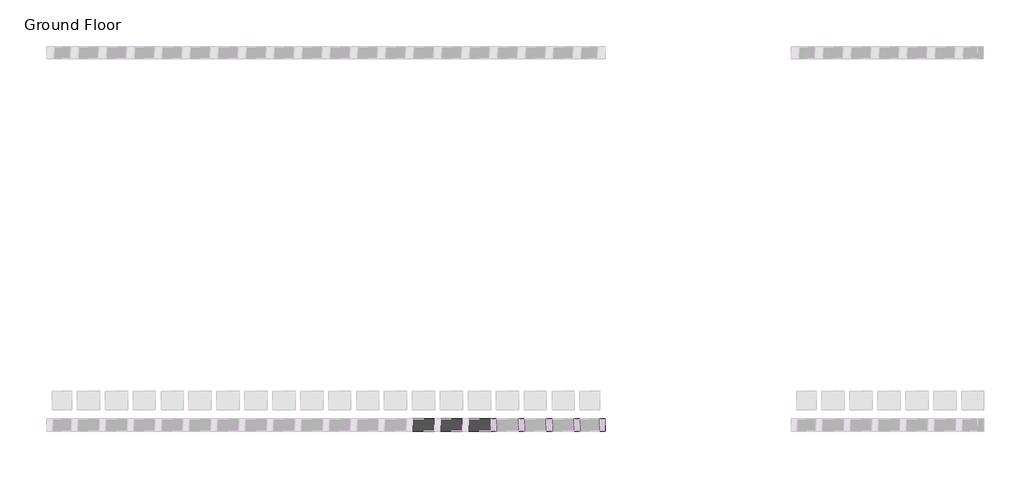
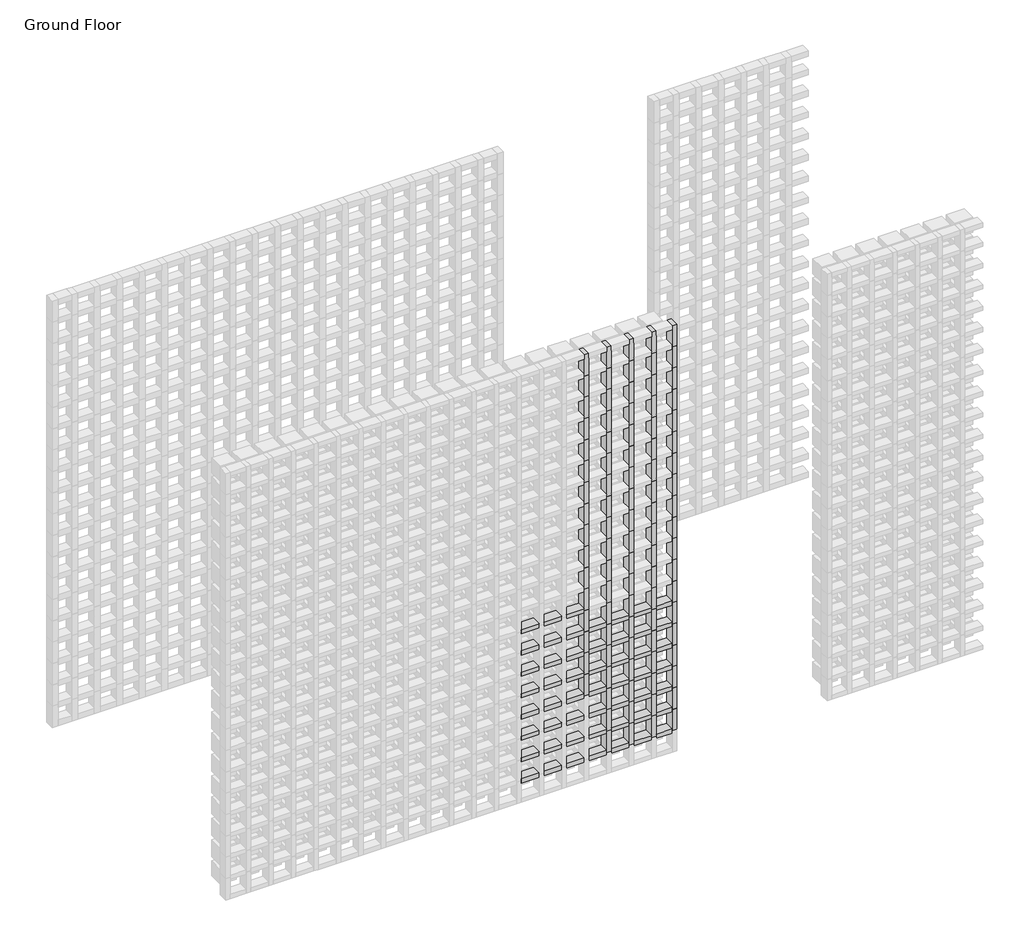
# One storey, part 72 of 350: 144 members.
"""IFC4 building model written with IfcOpenShell, lengths in millimetres."""

from ifc_helpers import new_model, si_unit, origin, place, context, project, spatial, transform, mapped, element, save
from components import rectangular_mullion_5b501421, rectangular_mullion_e9e2e2fa, rectangular_mullion_f28dea33, rectangular_mullion_a9727e9f

model = new_model("IFC4")

# Units and contexts
model_context = context("Model", 3, world=origin())
ifc_project = project(units=[si_unit("LENGTHUNIT", "METRE", prefix="MILLI")], contexts=[model_context])

# Site, building, storey
site = spatial("IfcSite", under=ifc_project)
building = spatial("IfcBuilding", under=site)
storey = spatial("IfcBuildingStorey", under=building, Name="Ground Floor", Elevation=0.0)

# Members
placement = place(None, origin())
rectangular_mullion_shape = rectangular_mullion_5b501421(model_context)
element("IfcMember", 1, ObjectType="Rectangular Mullion : Batten_Timber_Modinex_Austratus_Grid_Fascia_30x65_Hemlock", at=placement, inside=storey, context=model_context, shape_type="MappedRepresentation", body=[
    mapped(rectangular_mullion_shape, transform((12316.4361642, 38968.2978302, 600.0), x_axis=(1.0, 0.0, 0.0), y_axis=(0.0, -1.0, 0.0), z_axis=(0.0, 0.0, -1.0))),
])
element("IfcMember", 2, ObjectType="Rectangular Mullion : Batten_Timber_Modinex_Austratus_Grid_Fascia_30x65_Hemlock", at=placement, inside=storey, context=model_context, shape_type="MappedRepresentation", body=[
    mapped(rectangular_mullion_shape, transform((12316.4361642, 38968.2978302, 750.0), x_axis=(1.0, 0.0, 0.0), y_axis=(0.0, -1.0, 0.0), z_axis=(0.0, 0.0, -1.0))),
])
element("IfcMember", 3, ObjectType="Rectangular Mullion : Batten_Timber_Modinex_Austratus_Grid_Fascia_30x65_Hemlock", at=placement, inside=storey, context=model_context, shape_type="MappedRepresentation", body=[
    mapped(rectangular_mullion_shape, transform((12316.4361642, 38968.2978302, 900.0), x_axis=(1.0, 0.0, 0.0), y_axis=(0.0, -1.0, 0.0), z_axis=(0.0, 0.0, -1.0))),
])
element("IfcMember", 4, ObjectType="Rectangular Mullion : Batten_Timber_Modinex_Austratus_Grid_Fascia_30x65_Hemlock", at=placement, inside=storey, context=model_context, shape_type="MappedRepresentation", body=[
    mapped(rectangular_mullion_shape, transform((12316.4361642, 38968.2978302, 1050.0), x_axis=(1.0, 0.0, 0.0), y_axis=(0.0, -1.0, 0.0), z_axis=(0.0, 0.0, -1.0))),
])
element("IfcMember", 5, ObjectType="Rectangular Mullion : Batten_Timber_Modinex_Austratus_Grid_Fascia_30x65_Hemlock", at=placement, inside=storey, context=model_context, shape_type="MappedRepresentation", body=[
    mapped(rectangular_mullion_shape, transform((12316.4361642, 38968.2978302, 1200.0), x_axis=(1.0, 0.0, 0.0), y_axis=(0.0, -1.0, 0.0), z_axis=(0.0, 0.0, -1.0))),
])
element("IfcMember", 6, ObjectType="Rectangular Mullion : Batten_Timber_Modinex_Austratus_Grid_Fascia_30x65_Hemlock", at=placement, inside=storey, context=model_context, shape_type="MappedRepresentation", body=[
    mapped(rectangular_mullion_shape, transform((12316.4361642, 38968.2978302, 1350.0), x_axis=(1.0, 0.0, 0.0), y_axis=(0.0, -1.0, 0.0), z_axis=(0.0, 0.0, -1.0))),
])
element("IfcMember", 7, ObjectType="Rectangular Mullion : Batten_Timber_Modinex_Austratus_Grid_Fascia_30x65_Hemlock", at=placement, inside=storey, context=model_context, shape_type="MappedRepresentation", body=[
    mapped(rectangular_mullion_shape, transform((12316.4361642, 38968.2978302, 1500.0), x_axis=(1.0, 0.0, 0.0), y_axis=(0.0, -1.0, 0.0), z_axis=(0.0, 0.0, -1.0))),
])
element("IfcMember", 8, ObjectType="Rectangular Mullion : Batten_Timber_Modinex_Austratus_Grid_Fascia_30x65_Hemlock", at=placement, inside=storey, context=model_context, shape_type="MappedRepresentation", body=[
    mapped(rectangular_mullion_shape, transform((12316.4361642, 38968.2978302, 1650.0), x_axis=(1.0, 0.0, 0.0), y_axis=(0.0, -1.0, 0.0), z_axis=(0.0, 0.0, -1.0))),
])
element("IfcMember", 9, ObjectType="Rectangular Mullion : Batten_Timber_Modinex_Austratus_Grid_Fascia_30x65_Hemlock", at=placement, inside=storey, context=model_context, shape_type="MappedRepresentation", body=[
    mapped(rectangular_mullion_shape, transform((12316.4361642, 38968.2978302, 1800.0), x_axis=(1.0, 0.0, 0.0), y_axis=(0.0, -1.0, 0.0), z_axis=(0.0, 0.0, -1.0))),
])
element("IfcMember", 10, ObjectType="Rectangular Mullion : Batten_Timber_Modinex_Austratus_Grid_Fascia_30x65_Hemlock", at=placement, inside=storey, context=model_context, shape_type="MappedRepresentation", body=[
    mapped(rectangular_mullion_shape, transform((12316.4361642, 38968.2978302, 1950.0), x_axis=(1.0, 0.0, 0.0), y_axis=(0.0, -1.0, 0.0), z_axis=(0.0, 0.0, -1.0))),
])
element("IfcMember", 11, ObjectType="Rectangular Mullion : Batten_Timber_Modinex_Austratus_Grid_Fascia_30x65_Hemlock", at=placement, inside=storey, context=model_context, shape_type="MappedRepresentation", body=[
    mapped(rectangular_mullion_shape, transform((12316.4361642, 38968.2978302, 2100.0), x_axis=(1.0, 0.0, 0.0), y_axis=(0.0, -1.0, 0.0), z_axis=(0.0, 0.0, -1.0))),
])
element("IfcMember", 12, ObjectType="Rectangular Mullion : Batten_Timber_Modinex_Austratus_Grid_Fascia_30x65_Hemlock", at=placement, inside=storey, context=model_context, shape_type="MappedRepresentation", body=[
    mapped(rectangular_mullion_shape, transform((12316.4361642, 38968.2978302, 2250.0), x_axis=(1.0, 0.0, 0.0), y_axis=(0.0, -1.0, 0.0), z_axis=(0.0, 0.0, -1.0))),
])
element("IfcMember", 13, ObjectType="Rectangular Mullion : Batten_Timber_Modinex_Austratus_Grid_Fascia_30x65_Hemlock", at=placement, inside=storey, context=model_context, shape_type="MappedRepresentation", body=[
    mapped(rectangular_mullion_shape, transform((12316.4361642, 38968.2978302, 2400.0), x_axis=(1.0, 0.0, 0.0), y_axis=(0.0, -1.0, 0.0), z_axis=(0.0, 0.0, -1.0))),
])
element("IfcMember", 14, ObjectType="Rectangular Mullion : Batten_Timber_Modinex_Austratus_Grid_Fascia_30x65_Hemlock", at=placement, inside=storey, context=model_context, shape_type="MappedRepresentation", body=[
    mapped(rectangular_mullion_shape, transform((12316.4361642, 38968.2978302, 2550.0), x_axis=(1.0, 0.0, 0.0), y_axis=(0.0, -1.0, 0.0), z_axis=(0.0, 0.0, -1.0))),
])
element("IfcMember", 15, ObjectType="Rectangular Mullion : Batten_Timber_Modinex_Austratus_Grid_Fascia_30x65_Hemlock", at=placement, inside=storey, context=model_context, shape_type="MappedRepresentation", body=[
    mapped(rectangular_mullion_shape, transform((12316.4361642, 38968.2978302, 2700.0), x_axis=(1.0, 0.0, 0.0), y_axis=(0.0, -1.0, 0.0), z_axis=(0.0, 0.0, -1.0))),
])
element("IfcMember", 16, ObjectType="Rectangular Mullion : Batten_Timber_Modinex_Austratus_Grid_Fascia_30x65_Hemlock", at=placement, inside=storey, context=model_context, shape_type="MappedRepresentation", body=[
    mapped(rectangular_mullion_shape, transform((12466.4361642, 38968.2978302, 150.0), x_axis=(1.0, 0.0, 0.0), y_axis=(0.0, -1.0, 0.0), z_axis=(0.0, 0.0, -1.0))),
])
element("IfcMember", 17, ObjectType="Rectangular Mullion : Batten_Timber_Modinex_Austratus_Grid_Fascia_30x65_Hemlock", at=placement, inside=storey, context=model_context, shape_type="MappedRepresentation", body=[
    mapped(rectangular_mullion_shape, transform((12466.4361642, 38968.2978302, 300.0), x_axis=(1.0, 0.0, 0.0), y_axis=(0.0, -1.0, 0.0), z_axis=(0.0, 0.0, -1.0))),
])
element("IfcMember", 18, ObjectType="Rectangular Mullion : Batten_Timber_Modinex_Austratus_Grid_Fascia_30x65_Hemlock", at=placement, inside=storey, context=model_context, shape_type="MappedRepresentation", body=[
    mapped(rectangular_mullion_shape, transform((12466.4361642, 38968.2978302, 450.0), x_axis=(1.0, 0.0, 0.0), y_axis=(0.0, -1.0, 0.0), z_axis=(0.0, 0.0, -1.0))),
])
element("IfcMember", 19, ObjectType="Rectangular Mullion : Batten_Timber_Modinex_Austratus_Grid_Fascia_30x65_Hemlock", at=placement, inside=storey, context=model_context, shape_type="MappedRepresentation", body=[
    mapped(rectangular_mullion_shape, transform((12466.4361642, 38968.2978302, 600.0), x_axis=(1.0, 0.0, 0.0), y_axis=(0.0, -1.0, 0.0), z_axis=(0.0, 0.0, -1.0))),
])
element("IfcMember", 20, ObjectType="Rectangular Mullion : Batten_Timber_Modinex_Austratus_Grid_Fascia_30x65_Hemlock", at=placement, inside=storey, context=model_context, shape_type="MappedRepresentation", body=[
    mapped(rectangular_mullion_shape, transform((12466.4361642, 38968.2978302, 750.0), x_axis=(1.0, 0.0, 0.0), y_axis=(0.0, -1.0, 0.0), z_axis=(0.0, 0.0, -1.0))),
])
element("IfcMember", 21, ObjectType="Rectangular Mullion : Batten_Timber_Modinex_Austratus_Grid_Fascia_30x65_Hemlock", at=placement, inside=storey, context=model_context, shape_type="MappedRepresentation", body=[
    mapped(rectangular_mullion_shape, transform((12466.4361642, 38968.2978302, 900.0), x_axis=(1.0, 0.0, 0.0), y_axis=(0.0, -1.0, 0.0), z_axis=(0.0, 0.0, -1.0))),
])
element("IfcMember", 22, ObjectType="Rectangular Mullion : Batten_Timber_Modinex_Austratus_Grid_Fascia_30x65_Hemlock", at=placement, inside=storey, context=model_context, shape_type="MappedRepresentation", body=[
    mapped(rectangular_mullion_shape, transform((12466.4361642, 38968.2978302, 1050.0), x_axis=(1.0, 0.0, 0.0), y_axis=(0.0, -1.0, 0.0), z_axis=(0.0, 0.0, -1.0))),
])
element("IfcMember", 23, ObjectType="Rectangular Mullion : Batten_Timber_Modinex_Austratus_Grid_Fascia_30x65_Hemlock", at=placement, inside=storey, context=model_context, shape_type="MappedRepresentation", body=[
    mapped(rectangular_mullion_shape, transform((12466.4361642, 38968.2978302, 1200.0), x_axis=(1.0, 0.0, 0.0), y_axis=(0.0, -1.0, 0.0), z_axis=(0.0, 0.0, -1.0))),
])
element("IfcMember", 24, ObjectType="Rectangular Mullion : Batten_Timber_Modinex_Austratus_Grid_Fascia_30x65_Hemlock", at=placement, inside=storey, context=model_context, shape_type="MappedRepresentation", body=[
    mapped(rectangular_mullion_shape, transform((12466.4361642, 38968.2978302, 1350.0), x_axis=(1.0, 0.0, 0.0), y_axis=(0.0, -1.0, 0.0), z_axis=(0.0, 0.0, -1.0))),
])
element("IfcMember", 25, ObjectType="Rectangular Mullion : Batten_Timber_Modinex_Austratus_Grid_Fascia_30x65_Hemlock", at=placement, inside=storey, context=model_context, shape_type="MappedRepresentation", body=[
    mapped(rectangular_mullion_shape, transform((12466.4361642, 38968.2978302, 1500.0), x_axis=(1.0, 0.0, 0.0), y_axis=(0.0, -1.0, 0.0), z_axis=(0.0, 0.0, -1.0))),
])
element("IfcMember", 26, ObjectType="Rectangular Mullion : Batten_Timber_Modinex_Austratus_Grid_Fascia_30x65_Hemlock", at=placement, inside=storey, context=model_context, shape_type="MappedRepresentation", body=[
    mapped(rectangular_mullion_shape, transform((12466.4361642, 38968.2978302, 1650.0), x_axis=(1.0, 0.0, 0.0), y_axis=(0.0, -1.0, 0.0), z_axis=(0.0, 0.0, -1.0))),
])
element("IfcMember", 27, ObjectType="Rectangular Mullion : Batten_Timber_Modinex_Austratus_Grid_Fascia_30x65_Hemlock", at=placement, inside=storey, context=model_context, shape_type="MappedRepresentation", body=[
    mapped(rectangular_mullion_shape, transform((12466.4361642, 38968.2978302, 1800.0), x_axis=(1.0, 0.0, 0.0), y_axis=(0.0, -1.0, 0.0), z_axis=(0.0, 0.0, -1.0))),
])
element("IfcMember", 28, ObjectType="Rectangular Mullion : Batten_Timber_Modinex_Austratus_Grid_Fascia_30x65_Hemlock", at=placement, inside=storey, context=model_context, shape_type="MappedRepresentation", body=[
    mapped(rectangular_mullion_shape, transform((12466.4361642, 38968.2978302, 1950.0), x_axis=(1.0, 0.0, 0.0), y_axis=(0.0, -1.0, 0.0), z_axis=(0.0, 0.0, -1.0))),
])
element("IfcMember", 29, ObjectType="Rectangular Mullion : Batten_Timber_Modinex_Austratus_Grid_Fascia_30x65_Hemlock", at=placement, inside=storey, context=model_context, shape_type="MappedRepresentation", body=[
    mapped(rectangular_mullion_shape, transform((12466.4361642, 38968.2978302, 2100.0), x_axis=(1.0, 0.0, 0.0), y_axis=(0.0, -1.0, 0.0), z_axis=(0.0, 0.0, -1.0))),
])
element("IfcMember", 30, ObjectType="Rectangular Mullion : Batten_Timber_Modinex_Austratus_Grid_Fascia_30x65_Hemlock", at=placement, inside=storey, context=model_context, shape_type="MappedRepresentation", body=[
    mapped(rectangular_mullion_shape, transform((12466.4361642, 38968.2978302, 2250.0), x_axis=(1.0, 0.0, 0.0), y_axis=(0.0, -1.0, 0.0), z_axis=(0.0, 0.0, -1.0))),
])
element("IfcMember", 31, ObjectType="Rectangular Mullion : Batten_Timber_Modinex_Austratus_Grid_Fascia_30x65_Hemlock", at=placement, inside=storey, context=model_context, shape_type="MappedRepresentation", body=[
    mapped(rectangular_mullion_shape, transform((12466.4361642, 38968.2978302, 2400.0), x_axis=(1.0, 0.0, 0.0), y_axis=(0.0, -1.0, 0.0), z_axis=(0.0, 0.0, -1.0))),
])
element("IfcMember", 32, ObjectType="Rectangular Mullion : Batten_Timber_Modinex_Austratus_Grid_Fascia_30x65_Hemlock", at=placement, inside=storey, context=model_context, shape_type="MappedRepresentation", body=[
    mapped(rectangular_mullion_shape, transform((12466.4361642, 38968.2978302, 2550.0), x_axis=(1.0, 0.0, 0.0), y_axis=(0.0, -1.0, 0.0), z_axis=(0.0, 0.0, -1.0))),
])
element("IfcMember", 33, ObjectType="Rectangular Mullion : Batten_Timber_Modinex_Austratus_Grid_Fascia_30x65_Hemlock", at=placement, inside=storey, context=model_context, shape_type="MappedRepresentation", body=[
    mapped(rectangular_mullion_shape, transform((12466.4361642, 38968.2978302, 2700.0), x_axis=(1.0, 0.0, 0.0), y_axis=(0.0, -1.0, 0.0), z_axis=(0.0, 0.0, -1.0))),
])
element("IfcMember", 34, ObjectType="Rectangular Mullion : Batten_Timber_Modinex_Austratus_Grid_Fascia_30x65_Hemlock", at=placement, inside=storey, context=model_context, shape_type="MappedRepresentation", body=[
    mapped(rectangular_mullion_shape, transform((12616.4361642, 38968.2978302, 150.0), x_axis=(1.0, 0.0, 0.0), y_axis=(0.0, -1.0, 0.0), z_axis=(0.0, 0.0, -1.0))),
])
element("IfcMember", 35, ObjectType="Rectangular Mullion : Batten_Timber_Modinex_Austratus_Grid_Fascia_30x65_Hemlock", at=placement, inside=storey, context=model_context, shape_type="MappedRepresentation", body=[
    mapped(rectangular_mullion_shape, transform((12616.4361642, 38968.2978302, 300.0), x_axis=(1.0, 0.0, 0.0), y_axis=(0.0, -1.0, 0.0), z_axis=(0.0, 0.0, -1.0))),
])
element("IfcMember", 36, ObjectType="Rectangular Mullion : Batten_Timber_Modinex_Austratus_Grid_Fascia_30x65_Hemlock", at=placement, inside=storey, context=model_context, shape_type="MappedRepresentation", body=[
    mapped(rectangular_mullion_shape, transform((12616.4361642, 38968.2978302, 450.0), x_axis=(1.0, 0.0, 0.0), y_axis=(0.0, -1.0, 0.0), z_axis=(0.0, 0.0, -1.0))),
])
element("IfcMember", 37, ObjectType="Rectangular Mullion : Batten_Timber_Modinex_Austratus_Grid_Fascia_30x65_Hemlock", at=placement, inside=storey, context=model_context, shape_type="MappedRepresentation", body=[
    mapped(rectangular_mullion_shape, transform((12616.4361642, 38968.2978302, 600.0), x_axis=(1.0, 0.0, 0.0), y_axis=(0.0, -1.0, 0.0), z_axis=(0.0, 0.0, -1.0))),
])
element("IfcMember", 38, ObjectType="Rectangular Mullion : Batten_Timber_Modinex_Austratus_Grid_Fascia_30x65_Hemlock", at=placement, inside=storey, context=model_context, shape_type="MappedRepresentation", body=[
    mapped(rectangular_mullion_shape, transform((12616.4361642, 38968.2978302, 750.0), x_axis=(1.0, 0.0, 0.0), y_axis=(0.0, -1.0, 0.0), z_axis=(0.0, 0.0, -1.0))),
])
element("IfcMember", 39, ObjectType="Rectangular Mullion : Batten_Timber_Modinex_Austratus_Grid_Fascia_30x65_Hemlock", at=placement, inside=storey, context=model_context, shape_type="MappedRepresentation", body=[
    mapped(rectangular_mullion_shape, transform((12616.4361642, 38968.2978302, 900.0), x_axis=(1.0, 0.0, 0.0), y_axis=(0.0, -1.0, 0.0), z_axis=(0.0, 0.0, -1.0))),
])
element("IfcMember", 40, ObjectType="Rectangular Mullion : Batten_Timber_Modinex_Austratus_Grid_Fascia_30x65_Hemlock", at=placement, inside=storey, context=model_context, shape_type="MappedRepresentation", body=[
    mapped(rectangular_mullion_shape, transform((12616.4361642, 38968.2978302, 1050.0), x_axis=(1.0, 0.0, 0.0), y_axis=(0.0, -1.0, 0.0), z_axis=(0.0, 0.0, -1.0))),
])
element("IfcMember", 41, ObjectType="Rectangular Mullion : Batten_Timber_Modinex_Austratus_Grid_Fascia_30x65_Hemlock", at=placement, inside=storey, context=model_context, shape_type="MappedRepresentation", body=[
    mapped(rectangular_mullion_shape, transform((12616.4361642, 38968.2978302, 1200.0), x_axis=(1.0, 0.0, 0.0), y_axis=(0.0, -1.0, 0.0), z_axis=(0.0, 0.0, -1.0))),
])
element("IfcMember", 42, ObjectType="Rectangular Mullion : Batten_Timber_Modinex_Austratus_Grid_Fascia_30x65_Hemlock", at=placement, inside=storey, context=model_context, shape_type="MappedRepresentation", body=[
    mapped(rectangular_mullion_shape, transform((12616.4361642, 38968.2978302, 1350.0), x_axis=(1.0, 0.0, 0.0), y_axis=(0.0, -1.0, 0.0), z_axis=(0.0, 0.0, -1.0))),
])
element("IfcMember", 43, ObjectType="Rectangular Mullion : Batten_Timber_Modinex_Austratus_Grid_Fascia_30x65_Hemlock", at=placement, inside=storey, context=model_context, shape_type="MappedRepresentation", body=[
    mapped(rectangular_mullion_shape, transform((12616.4361642, 38968.2978302, 1500.0), x_axis=(1.0, 0.0, 0.0), y_axis=(0.0, -1.0, 0.0), z_axis=(0.0, 0.0, -1.0))),
])
element("IfcMember", 44, ObjectType="Rectangular Mullion : Batten_Timber_Modinex_Austratus_Grid_Fascia_30x65_Hemlock", at=placement, inside=storey, context=model_context, shape_type="MappedRepresentation", body=[
    mapped(rectangular_mullion_shape, transform((12616.4361642, 38968.2978302, 1650.0), x_axis=(1.0, 0.0, 0.0), y_axis=(0.0, -1.0, 0.0), z_axis=(0.0, 0.0, -1.0))),
])
element("IfcMember", 45, ObjectType="Rectangular Mullion : Batten_Timber_Modinex_Austratus_Grid_Fascia_30x65_Hemlock", at=placement, inside=storey, context=model_context, shape_type="MappedRepresentation", body=[
    mapped(rectangular_mullion_shape, transform((12616.4361642, 38968.2978302, 1800.0), x_axis=(1.0, 0.0, 0.0), y_axis=(0.0, -1.0, 0.0), z_axis=(0.0, 0.0, -1.0))),
])
element("IfcMember", 46, ObjectType="Rectangular Mullion : Batten_Timber_Modinex_Austratus_Grid_Fascia_30x65_Hemlock", at=placement, inside=storey, context=model_context, shape_type="MappedRepresentation", body=[
    mapped(rectangular_mullion_shape, transform((12616.4361642, 38968.2978302, 1950.0), x_axis=(1.0, 0.0, 0.0), y_axis=(0.0, -1.0, 0.0), z_axis=(0.0, 0.0, -1.0))),
])
element("IfcMember", 47, ObjectType="Rectangular Mullion : Batten_Timber_Modinex_Austratus_Grid_Fascia_30x65_Hemlock", at=placement, inside=storey, context=model_context, shape_type="MappedRepresentation", body=[
    mapped(rectangular_mullion_shape, transform((12616.4361642, 38968.2978302, 2100.0), x_axis=(1.0, 0.0, 0.0), y_axis=(0.0, -1.0, 0.0), z_axis=(0.0, 0.0, -1.0))),
])
element("IfcMember", 48, ObjectType="Rectangular Mullion : Batten_Timber_Modinex_Austratus_Grid_Fascia_30x65_Hemlock", at=placement, inside=storey, context=model_context, shape_type="MappedRepresentation", body=[
    mapped(rectangular_mullion_shape, transform((12616.4361642, 38968.2978302, 2250.0), x_axis=(1.0, 0.0, 0.0), y_axis=(0.0, -1.0, 0.0), z_axis=(0.0, 0.0, -1.0))),
])
element("IfcMember", 49, ObjectType="Rectangular Mullion : Batten_Timber_Modinex_Austratus_Grid_Fascia_30x65_Hemlock", at=placement, inside=storey, context=model_context, shape_type="MappedRepresentation", body=[
    mapped(rectangular_mullion_shape, transform((12616.4361642, 38968.2978302, 2400.0), x_axis=(1.0, 0.0, 0.0), y_axis=(0.0, -1.0, 0.0), z_axis=(0.0, 0.0, -1.0))),
])
element("IfcMember", 50, ObjectType="Rectangular Mullion : Batten_Timber_Modinex_Austratus_Grid_Fascia_30x65_Hemlock", at=placement, inside=storey, context=model_context, shape_type="MappedRepresentation", body=[
    mapped(rectangular_mullion_shape, transform((12616.4361642, 38968.2978302, 2550.0), x_axis=(1.0, 0.0, 0.0), y_axis=(0.0, -1.0, 0.0), z_axis=(0.0, 0.0, -1.0))),
])
element("IfcMember", 51, ObjectType="Rectangular Mullion : Batten_Timber_Modinex_Austratus_Grid_Fascia_30x65_Hemlock", at=placement, inside=storey, context=model_context, shape_type="MappedRepresentation", body=[
    mapped(rectangular_mullion_shape, transform((12616.4361642, 38968.2978302, 2700.0), x_axis=(1.0, 0.0, 0.0), y_axis=(0.0, -1.0, 0.0), z_axis=(0.0, 0.0, -1.0))),
])
element("IfcMember", 52, ObjectType="Rectangular Mullion : Batten_Timber_Modinex_Austratus_Grid_Fascia_30x65_Hemlock", at=placement, inside=storey, context=model_context, shape_type="MappedRepresentation", body=[
    mapped(rectangular_mullion_shape, transform((12766.4361642, 38968.2978302, 150.0), x_axis=(1.0, 0.0, 0.0), y_axis=(0.0, -1.0, 0.0), z_axis=(0.0, 0.0, -1.0))),
])
element("IfcMember", 53, ObjectType="Rectangular Mullion : Batten_Timber_Modinex_Austratus_Grid_Fascia_30x65_Hemlock", at=placement, inside=storey, context=model_context, shape_type="MappedRepresentation", body=[
    mapped(rectangular_mullion_shape, transform((12766.4361642, 38968.2978302, 300.0), x_axis=(1.0, 0.0, 0.0), y_axis=(0.0, -1.0, 0.0), z_axis=(0.0, 0.0, -1.0))),
])
element("IfcMember", 54, ObjectType="Rectangular Mullion : Batten_Timber_Modinex_Austratus_Grid_Fascia_30x65_Hemlock", at=placement, inside=storey, context=model_context, shape_type="MappedRepresentation", body=[
    mapped(rectangular_mullion_shape, transform((12766.4361642, 38968.2978302, 450.0), x_axis=(1.0, 0.0, 0.0), y_axis=(0.0, -1.0, 0.0), z_axis=(0.0, 0.0, -1.0))),
])
element("IfcMember", 55, ObjectType="Rectangular Mullion : Batten_Timber_Modinex_Austratus_Grid_Fascia_30x65_Hemlock", at=placement, inside=storey, context=model_context, shape_type="MappedRepresentation", body=[
    mapped(rectangular_mullion_shape, transform((12766.4361642, 38968.2978302, 600.0), x_axis=(1.0, 0.0, 0.0), y_axis=(0.0, -1.0, 0.0), z_axis=(0.0, 0.0, -1.0))),
])
element("IfcMember", 56, ObjectType="Rectangular Mullion : Batten_Timber_Modinex_Austratus_Grid_Fascia_30x65_Hemlock", at=placement, inside=storey, context=model_context, shape_type="MappedRepresentation", body=[
    mapped(rectangular_mullion_shape, transform((12766.4361642, 38968.2978302, 750.0), x_axis=(1.0, 0.0, 0.0), y_axis=(0.0, -1.0, 0.0), z_axis=(0.0, 0.0, -1.0))),
])
element("IfcMember", 57, ObjectType="Rectangular Mullion : Batten_Timber_Modinex_Austratus_Grid_Fascia_30x65_Hemlock", at=placement, inside=storey, context=model_context, shape_type="MappedRepresentation", body=[
    mapped(rectangular_mullion_shape, transform((12766.4361642, 38968.2978302, 900.0), x_axis=(1.0, 0.0, 0.0), y_axis=(0.0, -1.0, 0.0), z_axis=(0.0, 0.0, -1.0))),
])
element("IfcMember", 58, ObjectType="Rectangular Mullion : Batten_Timber_Modinex_Austratus_Grid_Fascia_30x65_Hemlock", at=placement, inside=storey, context=model_context, shape_type="MappedRepresentation", body=[
    mapped(rectangular_mullion_shape, transform((12766.4361642, 38968.2978302, 1050.0), x_axis=(1.0, 0.0, 0.0), y_axis=(0.0, -1.0, 0.0), z_axis=(0.0, 0.0, -1.0))),
])
element("IfcMember", 59, ObjectType="Rectangular Mullion : Batten_Timber_Modinex_Austratus_Grid_Fascia_30x65_Hemlock", at=placement, inside=storey, context=model_context, shape_type="MappedRepresentation", body=[
    mapped(rectangular_mullion_shape, transform((12766.4361642, 38968.2978302, 1200.0), x_axis=(1.0, 0.0, 0.0), y_axis=(0.0, -1.0, 0.0), z_axis=(0.0, 0.0, -1.0))),
])
element("IfcMember", 60, ObjectType="Rectangular Mullion : Batten_Timber_Modinex_Austratus_Grid_Fascia_30x65_Hemlock", at=placement, inside=storey, context=model_context, shape_type="MappedRepresentation", body=[
    mapped(rectangular_mullion_shape, transform((12766.4361642, 38968.2978302, 1350.0), x_axis=(1.0, 0.0, 0.0), y_axis=(0.0, -1.0, 0.0), z_axis=(0.0, 0.0, -1.0))),
])
element("IfcMember", 61, ObjectType="Rectangular Mullion : Batten_Timber_Modinex_Austratus_Grid_Fascia_30x65_Hemlock", at=placement, inside=storey, context=model_context, shape_type="MappedRepresentation", body=[
    mapped(rectangular_mullion_shape, transform((12766.4361642, 38968.2978302, 1500.0), x_axis=(1.0, 0.0, 0.0), y_axis=(0.0, -1.0, 0.0), z_axis=(0.0, 0.0, -1.0))),
])
element("IfcMember", 62, ObjectType="Rectangular Mullion : Batten_Timber_Modinex_Austratus_Grid_Fascia_30x65_Hemlock", at=placement, inside=storey, context=model_context, shape_type="MappedRepresentation", body=[
    mapped(rectangular_mullion_shape, transform((12766.4361642, 38968.2978302, 1650.0), x_axis=(1.0, 0.0, 0.0), y_axis=(0.0, -1.0, 0.0), z_axis=(0.0, 0.0, -1.0))),
])
element("IfcMember", 63, ObjectType="Rectangular Mullion : Batten_Timber_Modinex_Austratus_Grid_Fascia_30x65_Hemlock", at=placement, inside=storey, context=model_context, shape_type="MappedRepresentation", body=[
    mapped(rectangular_mullion_shape, transform((12766.4361642, 38968.2978302, 1800.0), x_axis=(1.0, 0.0, 0.0), y_axis=(0.0, -1.0, 0.0), z_axis=(0.0, 0.0, -1.0))),
])
element("IfcMember", 64, ObjectType="Rectangular Mullion : Batten_Timber_Modinex_Austratus_Grid_Fascia_30x65_Hemlock", at=placement, inside=storey, context=model_context, shape_type="MappedRepresentation", body=[
    mapped(rectangular_mullion_shape, transform((12766.4361642, 38968.2978302, 1950.0), x_axis=(1.0, 0.0, 0.0), y_axis=(0.0, -1.0, 0.0), z_axis=(0.0, 0.0, -1.0))),
])
element("IfcMember", 65, ObjectType="Rectangular Mullion : Batten_Timber_Modinex_Austratus_Grid_Fascia_30x65_Hemlock", at=placement, inside=storey, context=model_context, shape_type="MappedRepresentation", body=[
    mapped(rectangular_mullion_shape, transform((12766.4361642, 38968.2978302, 2100.0), x_axis=(1.0, 0.0, 0.0), y_axis=(0.0, -1.0, 0.0), z_axis=(0.0, 0.0, -1.0))),
])
element("IfcMember", 66, ObjectType="Rectangular Mullion : Batten_Timber_Modinex_Austratus_Grid_Fascia_30x65_Hemlock", at=placement, inside=storey, context=model_context, shape_type="MappedRepresentation", body=[
    mapped(rectangular_mullion_shape, transform((12766.4361642, 38968.2978302, 2250.0), x_axis=(1.0, 0.0, 0.0), y_axis=(0.0, -1.0, 0.0), z_axis=(0.0, 0.0, -1.0))),
])
element("IfcMember", 67, ObjectType="Rectangular Mullion : Batten_Timber_Modinex_Austratus_Grid_Fascia_30x65_Hemlock", at=placement, inside=storey, context=model_context, shape_type="MappedRepresentation", body=[
    mapped(rectangular_mullion_shape, transform((12766.4361642, 38968.2978302, 2400.0), x_axis=(1.0, 0.0, 0.0), y_axis=(0.0, -1.0, 0.0), z_axis=(0.0, 0.0, -1.0))),
])
element("IfcMember", 68, ObjectType="Rectangular Mullion : Batten_Timber_Modinex_Austratus_Grid_Fascia_30x65_Hemlock", at=placement, inside=storey, context=model_context, shape_type="MappedRepresentation", body=[
    mapped(rectangular_mullion_shape, transform((12766.4361642, 38968.2978302, 2550.0), x_axis=(1.0, 0.0, 0.0), y_axis=(0.0, -1.0, 0.0), z_axis=(0.0, 0.0, -1.0))),
])
element("IfcMember", 69, ObjectType="Rectangular Mullion : Batten_Timber_Modinex_Austratus_Grid_Fascia_30x65_Hemlock", at=placement, inside=storey, context=model_context, shape_type="MappedRepresentation", body=[
    mapped(rectangular_mullion_shape, transform((12766.4361642, 38968.2978302, 2700.0), x_axis=(1.0, 0.0, 0.0), y_axis=(0.0, -1.0, 0.0), z_axis=(0.0, 0.0, -1.0))),
])
element("IfcMember", 70, ObjectType="Rectangular Mullion : Batten_Timber_Modinex_Austratus_Grid_Fascia_30x65_Hemlock", at=placement, inside=storey, context=model_context, shape_type="MappedRepresentation", body=[
    mapped(rectangular_mullion_shape, transform((12316.4361642, 38968.2978302, 2850.0), x_axis=(1.0, 0.0, 0.0), y_axis=(0.0, -1.0, 0.0), z_axis=(0.0, 0.0, -1.0))),
])
element("IfcMember", 71, ObjectType="Rectangular Mullion : Batten_Timber_Modinex_Austratus_Grid_Fascia_30x65_Hemlock", at=placement, inside=storey, context=model_context, shape_type="MappedRepresentation", body=[
    mapped(rectangular_mullion_shape, transform((12466.4361642, 38968.2978302, 2850.0), x_axis=(1.0, 0.0, 0.0), y_axis=(0.0, -1.0, 0.0), z_axis=(0.0, 0.0, -1.0))),
])
element("IfcMember", 72, ObjectType="Rectangular Mullion : Batten_Timber_Modinex_Austratus_Grid_Fascia_30x65_Hemlock", at=placement, inside=storey, context=model_context, shape_type="MappedRepresentation", body=[
    mapped(rectangular_mullion_shape, transform((12616.4361642, 38968.2978302, 2850.0), x_axis=(1.0, 0.0, 0.0), y_axis=(0.0, -1.0, 0.0), z_axis=(0.0, 0.0, -1.0))),
])
element("IfcMember", 73, ObjectType="Rectangular Mullion : Batten_Timber_Modinex_Austratus_Grid_Fascia_30x65_Hemlock", at=placement, inside=storey, context=model_context, shape_type="MappedRepresentation", body=[
    mapped(rectangular_mullion_shape, transform((12766.4361642, 38968.2978302, 2850.0), x_axis=(1.0, 0.0, 0.0), y_axis=(0.0, -1.0, 0.0), z_axis=(0.0, 0.0, -1.0))),
])
rectangular_mullion_2_shape = rectangular_mullion_e9e2e2fa(model_context)
element("IfcMember", 74, ObjectType="Rectangular Mullion : Batten_Timber_Modinex_Austratus_Grid_Fascia_30x65_Hemlock", at=placement, inside=storey, context=model_context, shape_type="MappedRepresentation", body=[
    mapped(rectangular_mullion_2_shape, transform((12886.4361639, 38968.2978302, 150.0), x_axis=(0.0, 0.0, 1.0), y_axis=(0.0, -1.0, 0.0), z_axis=(1.0, 0.0, 0.0))),
])
element("IfcMember", 75, ObjectType="Rectangular Mullion : Batten_Timber_Modinex_Austratus_Grid_Fascia_30x65_Hemlock", at=placement, inside=storey, context=model_context, shape_type="MappedRepresentation", body=[
    mapped(rectangular_mullion_2_shape, transform((12886.4361639, 38968.2978302, 300.0), x_axis=(0.0, 0.0, 1.0), y_axis=(0.0, -1.0, 0.0), z_axis=(1.0, 0.0, 0.0))),
])
element("IfcMember", 76, ObjectType="Rectangular Mullion : Batten_Timber_Modinex_Austratus_Grid_Fascia_30x65_Hemlock", at=placement, inside=storey, context=model_context, shape_type="MappedRepresentation", body=[
    mapped(rectangular_mullion_2_shape, transform((12886.4361639, 38968.2978302, 450.0), x_axis=(0.0, 0.0, 1.0), y_axis=(0.0, -1.0, 0.0), z_axis=(1.0, 0.0, 0.0))),
])
element("IfcMember", 77, ObjectType="Rectangular Mullion : Batten_Timber_Modinex_Austratus_Grid_Fascia_30x65_Hemlock", at=placement, inside=storey, context=model_context, shape_type="MappedRepresentation", body=[
    mapped(rectangular_mullion_2_shape, transform((12886.4361639, 38968.2978302, 600.0), x_axis=(0.0, 0.0, 1.0), y_axis=(0.0, -1.0, 0.0), z_axis=(1.0, 0.0, 0.0))),
])
element("IfcMember", 78, ObjectType="Rectangular Mullion : Batten_Timber_Modinex_Austratus_Grid_Fascia_30x65_Hemlock", at=placement, inside=storey, context=model_context, shape_type="MappedRepresentation", body=[
    mapped(rectangular_mullion_2_shape, transform((12886.4361639, 38968.2978302, 750.0), x_axis=(0.0, 0.0, 1.0), y_axis=(0.0, -1.0, 0.0), z_axis=(1.0, 0.0, 0.0))),
])
element("IfcMember", 79, ObjectType="Rectangular Mullion : Batten_Timber_Modinex_Austratus_Grid_Fascia_30x65_Hemlock", at=placement, inside=storey, context=model_context, shape_type="MappedRepresentation", body=[
    mapped(rectangular_mullion_2_shape, transform((12886.4361639, 38968.2978302, 900.0), x_axis=(0.0, 0.0, 1.0), y_axis=(0.0, -1.0, 0.0), z_axis=(1.0, 0.0, 0.0))),
])
element("IfcMember", 80, ObjectType="Rectangular Mullion : Batten_Timber_Modinex_Austratus_Grid_Fascia_30x65_Hemlock", at=placement, inside=storey, context=model_context, shape_type="MappedRepresentation", body=[
    mapped(rectangular_mullion_2_shape, transform((12886.4361639, 38968.2978302, 1050.0), x_axis=(0.0, 0.0, 1.0), y_axis=(0.0, -1.0, 0.0), z_axis=(1.0, 0.0, 0.0))),
])
rectangular_mullion_3_shape = rectangular_mullion_f28dea33(model_context)
element("IfcMember", 81, ObjectType="Rectangular Mullion : Batten_Timber_Modinex_Austratus_Grid_Fascia_30x65_Hemlock", at=placement, inside=storey, context=model_context, shape_type="MappedRepresentation", body=[
    mapped(rectangular_mullion_3_shape, transform((12001.4361642, 38968.2978302, 150.0), x_axis=(0.0, 0.0, 1.0), y_axis=(0.0, -1.0, 0.0), z_axis=(1.0, 0.0, 0.0))),
])
element("IfcMember", 82, ObjectType="Rectangular Mullion : Batten_Timber_Modinex_Austratus_Grid_Fascia_30x65_Hemlock", at=placement, inside=storey, context=model_context, shape_type="MappedRepresentation", body=[
    mapped(rectangular_mullion_3_shape, transform((12151.4361642, 38968.2978302, 150.0), x_axis=(0.0, 0.0, 1.0), y_axis=(0.0, -1.0, 0.0), z_axis=(1.0, 0.0, 0.0))),
])
element("IfcMember", 83, ObjectType="Rectangular Mullion : Batten_Timber_Modinex_Austratus_Grid_Fascia_30x65_Hemlock", at=placement, inside=storey, context=model_context, shape_type="MappedRepresentation", body=[
    mapped(rectangular_mullion_3_shape, transform((12301.4361642, 38968.2978302, 150.0), x_axis=(0.0, 0.0, 1.0), y_axis=(0.0, -1.0, 0.0), z_axis=(1.0, 0.0, 0.0))),
])
element("IfcMember", 84, ObjectType="Rectangular Mullion : Batten_Timber_Modinex_Austratus_Grid_Fascia_30x65_Hemlock", at=placement, inside=storey, context=model_context, shape_type="MappedRepresentation", body=[
    mapped(rectangular_mullion_3_shape, transform((12451.4361642, 38968.2978302, 150.0), x_axis=(0.0, 0.0, 1.0), y_axis=(0.0, -1.0, 0.0), z_axis=(1.0, 0.0, 0.0))),
])
element("IfcMember", 85, ObjectType="Rectangular Mullion : Batten_Timber_Modinex_Austratus_Grid_Fascia_30x65_Hemlock", at=placement, inside=storey, context=model_context, shape_type="MappedRepresentation", body=[
    mapped(rectangular_mullion_3_shape, transform((12601.4361642, 38968.2978302, 150.0), x_axis=(0.0, 0.0, 1.0), y_axis=(0.0, -1.0, 0.0), z_axis=(1.0, 0.0, 0.0))),
])
element("IfcMember", 86, ObjectType="Rectangular Mullion : Batten_Timber_Modinex_Austratus_Grid_Fascia_30x65_Hemlock", at=placement, inside=storey, context=model_context, shape_type="MappedRepresentation", body=[
    mapped(rectangular_mullion_3_shape, transform((12751.4361642, 38968.2978302, 150.0), x_axis=(0.0, 0.0, 1.0), y_axis=(0.0, -1.0, 0.0), z_axis=(1.0, 0.0, 0.0))),
])
element("IfcMember", 87, ObjectType="Rectangular Mullion : Batten_Timber_Modinex_Austratus_Grid_Fascia_30x65_Hemlock", at=placement, inside=storey, context=model_context, shape_type="MappedRepresentation", body=[
    mapped(rectangular_mullion_3_shape, transform((12001.4361642, 38968.2978302, 300.0), x_axis=(0.0, 0.0, 1.0), y_axis=(0.0, -1.0, 0.0), z_axis=(1.0, 0.0, 0.0))),
])
element("IfcMember", 88, ObjectType="Rectangular Mullion : Batten_Timber_Modinex_Austratus_Grid_Fascia_30x65_Hemlock", at=placement, inside=storey, context=model_context, shape_type="MappedRepresentation", body=[
    mapped(rectangular_mullion_3_shape, transform((12151.4361642, 38968.2978302, 300.0), x_axis=(0.0, 0.0, 1.0), y_axis=(0.0, -1.0, 0.0), z_axis=(1.0, 0.0, 0.0))),
])
element("IfcMember", 89, ObjectType="Rectangular Mullion : Batten_Timber_Modinex_Austratus_Grid_Fascia_30x65_Hemlock", at=placement, inside=storey, context=model_context, shape_type="MappedRepresentation", body=[
    mapped(rectangular_mullion_3_shape, transform((12301.4361642, 38968.2978302, 300.0), x_axis=(0.0, 0.0, 1.0), y_axis=(0.0, -1.0, 0.0), z_axis=(1.0, 0.0, 0.0))),
])
element("IfcMember", 90, ObjectType="Rectangular Mullion : Batten_Timber_Modinex_Austratus_Grid_Fascia_30x65_Hemlock", at=placement, inside=storey, context=model_context, shape_type="MappedRepresentation", body=[
    mapped(rectangular_mullion_3_shape, transform((12451.4361642, 38968.2978302, 300.0), x_axis=(0.0, 0.0, 1.0), y_axis=(0.0, -1.0, 0.0), z_axis=(1.0, 0.0, 0.0))),
])
element("IfcMember", 91, ObjectType="Rectangular Mullion : Batten_Timber_Modinex_Austratus_Grid_Fascia_30x65_Hemlock", at=placement, inside=storey, context=model_context, shape_type="MappedRepresentation", body=[
    mapped(rectangular_mullion_3_shape, transform((12601.4361642, 38968.2978302, 300.0), x_axis=(0.0, 0.0, 1.0), y_axis=(0.0, -1.0, 0.0), z_axis=(1.0, 0.0, 0.0))),
])
element("IfcMember", 92, ObjectType="Rectangular Mullion : Batten_Timber_Modinex_Austratus_Grid_Fascia_30x65_Hemlock", at=placement, inside=storey, context=model_context, shape_type="MappedRepresentation", body=[
    mapped(rectangular_mullion_3_shape, transform((12751.4361642, 38968.2978302, 300.0), x_axis=(0.0, 0.0, 1.0), y_axis=(0.0, -1.0, 0.0), z_axis=(1.0, 0.0, 0.0))),
])
element("IfcMember", 93, ObjectType="Rectangular Mullion : Batten_Timber_Modinex_Austratus_Grid_Fascia_30x65_Hemlock", at=placement, inside=storey, context=model_context, shape_type="MappedRepresentation", body=[
    mapped(rectangular_mullion_3_shape, transform((12001.4361642, 38968.2978302, 450.0), x_axis=(0.0, 0.0, 1.0), y_axis=(0.0, -1.0, 0.0), z_axis=(1.0, 0.0, 0.0))),
])
element("IfcMember", 94, ObjectType="Rectangular Mullion : Batten_Timber_Modinex_Austratus_Grid_Fascia_30x65_Hemlock", at=placement, inside=storey, context=model_context, shape_type="MappedRepresentation", body=[
    mapped(rectangular_mullion_3_shape, transform((12151.4361642, 38968.2978302, 450.0), x_axis=(0.0, 0.0, 1.0), y_axis=(0.0, -1.0, 0.0), z_axis=(1.0, 0.0, 0.0))),
])
element("IfcMember", 95, ObjectType="Rectangular Mullion : Batten_Timber_Modinex_Austratus_Grid_Fascia_30x65_Hemlock", at=placement, inside=storey, context=model_context, shape_type="MappedRepresentation", body=[
    mapped(rectangular_mullion_3_shape, transform((12301.4361642, 38968.2978302, 450.0), x_axis=(0.0, 0.0, 1.0), y_axis=(0.0, -1.0, 0.0), z_axis=(1.0, 0.0, 0.0))),
])
element("IfcMember", 96, ObjectType="Rectangular Mullion : Batten_Timber_Modinex_Austratus_Grid_Fascia_30x65_Hemlock", at=placement, inside=storey, context=model_context, shape_type="MappedRepresentation", body=[
    mapped(rectangular_mullion_3_shape, transform((12451.4361642, 38968.2978302, 450.0), x_axis=(0.0, 0.0, 1.0), y_axis=(0.0, -1.0, 0.0), z_axis=(1.0, 0.0, 0.0))),
])
element("IfcMember", 97, ObjectType="Rectangular Mullion : Batten_Timber_Modinex_Austratus_Grid_Fascia_30x65_Hemlock", at=placement, inside=storey, context=model_context, shape_type="MappedRepresentation", body=[
    mapped(rectangular_mullion_3_shape, transform((12601.4361642, 38968.2978302, 450.0), x_axis=(0.0, 0.0, 1.0), y_axis=(0.0, -1.0, 0.0), z_axis=(1.0, 0.0, 0.0))),
])
element("IfcMember", 98, ObjectType="Rectangular Mullion : Batten_Timber_Modinex_Austratus_Grid_Fascia_30x65_Hemlock", at=placement, inside=storey, context=model_context, shape_type="MappedRepresentation", body=[
    mapped(rectangular_mullion_3_shape, transform((12751.4361642, 38968.2978302, 450.0), x_axis=(0.0, 0.0, 1.0), y_axis=(0.0, -1.0, 0.0), z_axis=(1.0, 0.0, 0.0))),
])
element("IfcMember", 99, ObjectType="Rectangular Mullion : Batten_Timber_Modinex_Austratus_Grid_Fascia_30x65_Hemlock", at=placement, inside=storey, context=model_context, shape_type="MappedRepresentation", body=[
    mapped(rectangular_mullion_3_shape, transform((12001.4361642, 38968.2978302, 600.0), x_axis=(0.0, 0.0, 1.0), y_axis=(0.0, -1.0, 0.0), z_axis=(1.0, 0.0, 0.0))),
])
element("IfcMember", 100, ObjectType="Rectangular Mullion : Batten_Timber_Modinex_Austratus_Grid_Fascia_30x65_Hemlock", at=placement, inside=storey, context=model_context, shape_type="MappedRepresentation", body=[
    mapped(rectangular_mullion_3_shape, transform((12151.4361642, 38968.2978302, 600.0), x_axis=(0.0, 0.0, 1.0), y_axis=(0.0, -1.0, 0.0), z_axis=(1.0, 0.0, 0.0))),
])
element("IfcMember", 101, ObjectType="Rectangular Mullion : Batten_Timber_Modinex_Austratus_Grid_Fascia_30x65_Hemlock", at=placement, inside=storey, context=model_context, shape_type="MappedRepresentation", body=[
    mapped(rectangular_mullion_3_shape, transform((12301.4361642, 38968.2978302, 600.0), x_axis=(0.0, 0.0, 1.0), y_axis=(0.0, -1.0, 0.0), z_axis=(1.0, 0.0, 0.0))),
])
element("IfcMember", 102, ObjectType="Rectangular Mullion : Batten_Timber_Modinex_Austratus_Grid_Fascia_30x65_Hemlock", at=placement, inside=storey, context=model_context, shape_type="MappedRepresentation", body=[
    mapped(rectangular_mullion_3_shape, transform((12451.4361642, 38968.2978302, 600.0), x_axis=(0.0, 0.0, 1.0), y_axis=(0.0, -1.0, 0.0), z_axis=(1.0, 0.0, 0.0))),
])
element("IfcMember", 103, ObjectType="Rectangular Mullion : Batten_Timber_Modinex_Austratus_Grid_Fascia_30x65_Hemlock", at=placement, inside=storey, context=model_context, shape_type="MappedRepresentation", body=[
    mapped(rectangular_mullion_3_shape, transform((12601.4361642, 38968.2978302, 600.0), x_axis=(0.0, 0.0, 1.0), y_axis=(0.0, -1.0, 0.0), z_axis=(1.0, 0.0, 0.0))),
])
element("IfcMember", 104, ObjectType="Rectangular Mullion : Batten_Timber_Modinex_Austratus_Grid_Fascia_30x65_Hemlock", at=placement, inside=storey, context=model_context, shape_type="MappedRepresentation", body=[
    mapped(rectangular_mullion_3_shape, transform((12751.4361642, 38968.2978302, 600.0), x_axis=(0.0, 0.0, 1.0), y_axis=(0.0, -1.0, 0.0), z_axis=(1.0, 0.0, 0.0))),
])
element("IfcMember", 105, ObjectType="Rectangular Mullion : Batten_Timber_Modinex_Austratus_Grid_Fascia_30x65_Hemlock", at=placement, inside=storey, context=model_context, shape_type="MappedRepresentation", body=[
    mapped(rectangular_mullion_3_shape, transform((12001.4361642, 38968.2978302, 750.0), x_axis=(0.0, 0.0, 1.0), y_axis=(0.0, -1.0, 0.0), z_axis=(1.0, 0.0, 0.0))),
])
element("IfcMember", 106, ObjectType="Rectangular Mullion : Batten_Timber_Modinex_Austratus_Grid_Fascia_30x65_Hemlock", at=placement, inside=storey, context=model_context, shape_type="MappedRepresentation", body=[
    mapped(rectangular_mullion_3_shape, transform((12151.4361642, 38968.2978302, 750.0), x_axis=(0.0, 0.0, 1.0), y_axis=(0.0, -1.0, 0.0), z_axis=(1.0, 0.0, 0.0))),
])
element("IfcMember", 107, ObjectType="Rectangular Mullion : Batten_Timber_Modinex_Austratus_Grid_Fascia_30x65_Hemlock", at=placement, inside=storey, context=model_context, shape_type="MappedRepresentation", body=[
    mapped(rectangular_mullion_3_shape, transform((12301.4361642, 38968.2978302, 750.0), x_axis=(0.0, 0.0, 1.0), y_axis=(0.0, -1.0, 0.0), z_axis=(1.0, 0.0, 0.0))),
])
element("IfcMember", 108, ObjectType="Rectangular Mullion : Batten_Timber_Modinex_Austratus_Grid_Fascia_30x65_Hemlock", at=placement, inside=storey, context=model_context, shape_type="MappedRepresentation", body=[
    mapped(rectangular_mullion_3_shape, transform((12451.4361642, 38968.2978302, 750.0), x_axis=(0.0, 0.0, 1.0), y_axis=(0.0, -1.0, 0.0), z_axis=(1.0, 0.0, 0.0))),
])
element("IfcMember", 109, ObjectType="Rectangular Mullion : Batten_Timber_Modinex_Austratus_Grid_Fascia_30x65_Hemlock", at=placement, inside=storey, context=model_context, shape_type="MappedRepresentation", body=[
    mapped(rectangular_mullion_3_shape, transform((12601.4361642, 38968.2978302, 750.0), x_axis=(0.0, 0.0, 1.0), y_axis=(0.0, -1.0, 0.0), z_axis=(1.0, 0.0, 0.0))),
])
element("IfcMember", 110, ObjectType="Rectangular Mullion : Batten_Timber_Modinex_Austratus_Grid_Fascia_30x65_Hemlock", at=placement, inside=storey, context=model_context, shape_type="MappedRepresentation", body=[
    mapped(rectangular_mullion_3_shape, transform((12751.4361642, 38968.2978302, 750.0), x_axis=(0.0, 0.0, 1.0), y_axis=(0.0, -1.0, 0.0), z_axis=(1.0, 0.0, 0.0))),
])
element("IfcMember", 111, ObjectType="Rectangular Mullion : Batten_Timber_Modinex_Austratus_Grid_Fascia_30x65_Hemlock", at=placement, inside=storey, context=model_context, shape_type="MappedRepresentation", body=[
    mapped(rectangular_mullion_3_shape, transform((12001.4361642, 38968.2978302, 900.0), x_axis=(0.0, 0.0, 1.0), y_axis=(0.0, -1.0, 0.0), z_axis=(1.0, 0.0, 0.0))),
])
element("IfcMember", 112, ObjectType="Rectangular Mullion : Batten_Timber_Modinex_Austratus_Grid_Fascia_30x65_Hemlock", at=placement, inside=storey, context=model_context, shape_type="MappedRepresentation", body=[
    mapped(rectangular_mullion_3_shape, transform((12151.4361642, 38968.2978302, 900.0), x_axis=(0.0, 0.0, 1.0), y_axis=(0.0, -1.0, 0.0), z_axis=(1.0, 0.0, 0.0))),
])
element("IfcMember", 113, ObjectType="Rectangular Mullion : Batten_Timber_Modinex_Austratus_Grid_Fascia_30x65_Hemlock", at=placement, inside=storey, context=model_context, shape_type="MappedRepresentation", body=[
    mapped(rectangular_mullion_3_shape, transform((12301.4361642, 38968.2978302, 900.0), x_axis=(0.0, 0.0, 1.0), y_axis=(0.0, -1.0, 0.0), z_axis=(1.0, 0.0, 0.0))),
])
element("IfcMember", 114, ObjectType="Rectangular Mullion : Batten_Timber_Modinex_Austratus_Grid_Fascia_30x65_Hemlock", at=placement, inside=storey, context=model_context, shape_type="MappedRepresentation", body=[
    mapped(rectangular_mullion_3_shape, transform((12451.4361642, 38968.2978302, 900.0), x_axis=(0.0, 0.0, 1.0), y_axis=(0.0, -1.0, 0.0), z_axis=(1.0, 0.0, 0.0))),
])
element("IfcMember", 115, ObjectType="Rectangular Mullion : Batten_Timber_Modinex_Austratus_Grid_Fascia_30x65_Hemlock", at=placement, inside=storey, context=model_context, shape_type="MappedRepresentation", body=[
    mapped(rectangular_mullion_3_shape, transform((12601.4361642, 38968.2978302, 900.0), x_axis=(0.0, 0.0, 1.0), y_axis=(0.0, -1.0, 0.0), z_axis=(1.0, 0.0, 0.0))),
])
element("IfcMember", 116, ObjectType="Rectangular Mullion : Batten_Timber_Modinex_Austratus_Grid_Fascia_30x65_Hemlock", at=placement, inside=storey, context=model_context, shape_type="MappedRepresentation", body=[
    mapped(rectangular_mullion_3_shape, transform((12751.4361642, 38968.2978302, 900.0), x_axis=(0.0, 0.0, 1.0), y_axis=(0.0, -1.0, 0.0), z_axis=(1.0, 0.0, 0.0))),
])
element("IfcMember", 117, ObjectType="Rectangular Mullion : Batten_Timber_Modinex_Austratus_Grid_Fascia_30x65_Hemlock", at=placement, inside=storey, context=model_context, shape_type="MappedRepresentation", body=[
    mapped(rectangular_mullion_3_shape, transform((12001.4361642, 38968.2978302, 1050.0), x_axis=(0.0, 0.0, 1.0), y_axis=(0.0, -1.0, 0.0), z_axis=(1.0, 0.0, 0.0))),
])
element("IfcMember", 118, ObjectType="Rectangular Mullion : Batten_Timber_Modinex_Austratus_Grid_Fascia_30x65_Hemlock", at=placement, inside=storey, context=model_context, shape_type="MappedRepresentation", body=[
    mapped(rectangular_mullion_3_shape, transform((12151.4361642, 38968.2978302, 1050.0), x_axis=(0.0, 0.0, 1.0), y_axis=(0.0, -1.0, 0.0), z_axis=(1.0, 0.0, 0.0))),
])
element("IfcMember", 119, ObjectType="Rectangular Mullion : Batten_Timber_Modinex_Austratus_Grid_Fascia_30x65_Hemlock", at=placement, inside=storey, context=model_context, shape_type="MappedRepresentation", body=[
    mapped(rectangular_mullion_3_shape, transform((12301.4361642, 38968.2978302, 1050.0), x_axis=(0.0, 0.0, 1.0), y_axis=(0.0, -1.0, 0.0), z_axis=(1.0, 0.0, 0.0))),
])
element("IfcMember", 120, ObjectType="Rectangular Mullion : Batten_Timber_Modinex_Austratus_Grid_Fascia_30x65_Hemlock", at=placement, inside=storey, context=model_context, shape_type="MappedRepresentation", body=[
    mapped(rectangular_mullion_3_shape, transform((12451.4361642, 38968.2978302, 1050.0), x_axis=(0.0, 0.0, 1.0), y_axis=(0.0, -1.0, 0.0), z_axis=(1.0, 0.0, 0.0))),
])
element("IfcMember", 121, ObjectType="Rectangular Mullion : Batten_Timber_Modinex_Austratus_Grid_Fascia_30x65_Hemlock", at=placement, inside=storey, context=model_context, shape_type="MappedRepresentation", body=[
    mapped(rectangular_mullion_3_shape, transform((12601.4361642, 38968.2978302, 1050.0), x_axis=(0.0, 0.0, 1.0), y_axis=(0.0, -1.0, 0.0), z_axis=(1.0, 0.0, 0.0))),
])
element("IfcMember", 122, ObjectType="Rectangular Mullion : Batten_Timber_Modinex_Austratus_Grid_Fascia_30x65_Hemlock", at=placement, inside=storey, context=model_context, shape_type="MappedRepresentation", body=[
    mapped(rectangular_mullion_3_shape, transform((12751.4361642, 38968.2978302, 1050.0), x_axis=(0.0, 0.0, 1.0), y_axis=(0.0, -1.0, 0.0), z_axis=(1.0, 0.0, 0.0))),
])
element("IfcMember", 123, ObjectType="Rectangular Mullion : Batten_Timber_Modinex_Austratus_Grid_Fascia_30x65_Hemlock", at=placement, inside=storey, context=model_context, shape_type="MappedRepresentation", body=[
    mapped(rectangular_mullion_3_shape, transform((12001.4361642, 38968.2978302, 1200.0), x_axis=(0.0, 0.0, 1.0), y_axis=(0.0, -1.0, 0.0), z_axis=(1.0, 0.0, 0.0))),
])
element("IfcMember", 124, ObjectType="Rectangular Mullion : Batten_Timber_Modinex_Austratus_Grid_Fascia_30x65_Hemlock", at=placement, inside=storey, context=model_context, shape_type="MappedRepresentation", body=[
    mapped(rectangular_mullion_3_shape, transform((12151.4361642, 38968.2978302, 1200.0), x_axis=(0.0, 0.0, 1.0), y_axis=(0.0, -1.0, 0.0), z_axis=(1.0, 0.0, 0.0))),
])
element("IfcMember", 125, ObjectType="Rectangular Mullion : Batten_Timber_Modinex_Austratus_Grid_Fascia_30x65_Hemlock", at=placement, inside=storey, context=model_context, shape_type="MappedRepresentation", body=[
    mapped(rectangular_mullion_3_shape, transform((12301.4361642, 38968.2978302, 1200.0), x_axis=(0.0, 0.0, 1.0), y_axis=(0.0, -1.0, 0.0), z_axis=(1.0, 0.0, 0.0))),
])
rectangular_mullion_4_shape = rectangular_mullion_a9727e9f(model_context)
element("IfcMember", 126, ObjectType="Rectangular Mullion : Batten_Timber_Modinex_Austratus_Grid_Fascia_30x65_Hemlock", at=placement, inside=storey, context=model_context, shape_type="MappedRepresentation", body=[
    mapped(rectangular_mullion_4_shape, transform((12916.4361639, 38968.2978302, 150.0), x_axis=(1.0, 0.0, 0.0), y_axis=(0.0, -1.0, 0.0), z_axis=(0.0, 0.0, -1.0))),
])
element("IfcMember", 127, ObjectType="Rectangular Mullion : Batten_Timber_Modinex_Austratus_Grid_Fascia_30x65_Hemlock", at=placement, inside=storey, context=model_context, shape_type="MappedRepresentation", body=[
    mapped(rectangular_mullion_4_shape, transform((12916.4361639, 38968.2978302, 300.0), x_axis=(1.0, 0.0, 0.0), y_axis=(0.0, -1.0, 0.0), z_axis=(0.0, 0.0, -1.0))),
])
element("IfcMember", 128, ObjectType="Rectangular Mullion : Batten_Timber_Modinex_Austratus_Grid_Fascia_30x65_Hemlock", at=placement, inside=storey, context=model_context, shape_type="MappedRepresentation", body=[
    mapped(rectangular_mullion_4_shape, transform((12916.4361639, 38968.2978302, 450.0), x_axis=(1.0, 0.0, 0.0), y_axis=(0.0, -1.0, 0.0), z_axis=(0.0, 0.0, -1.0))),
])
element("IfcMember", 129, ObjectType="Rectangular Mullion : Batten_Timber_Modinex_Austratus_Grid_Fascia_30x65_Hemlock", at=placement, inside=storey, context=model_context, shape_type="MappedRepresentation", body=[
    mapped(rectangular_mullion_4_shape, transform((12916.4361639, 38968.2978302, 600.0), x_axis=(1.0, 0.0, 0.0), y_axis=(0.0, -1.0, 0.0), z_axis=(0.0, 0.0, -1.0))),
])
element("IfcMember", 130, ObjectType="Rectangular Mullion : Batten_Timber_Modinex_Austratus_Grid_Fascia_30x65_Hemlock", at=placement, inside=storey, context=model_context, shape_type="MappedRepresentation", body=[
    mapped(rectangular_mullion_4_shape, transform((12916.4361639, 38968.2978302, 750.0), x_axis=(1.0, 0.0, 0.0), y_axis=(0.0, -1.0, 0.0), z_axis=(0.0, 0.0, -1.0))),
])
element("IfcMember", 131, ObjectType="Rectangular Mullion : Batten_Timber_Modinex_Austratus_Grid_Fascia_30x65_Hemlock", at=placement, inside=storey, context=model_context, shape_type="MappedRepresentation", body=[
    mapped(rectangular_mullion_4_shape, transform((12916.4361639, 38968.2978302, 900.0), x_axis=(1.0, 0.0, 0.0), y_axis=(0.0, -1.0, 0.0), z_axis=(0.0, 0.0, -1.0))),
])
element("IfcMember", 132, ObjectType="Rectangular Mullion : Batten_Timber_Modinex_Austratus_Grid_Fascia_30x65_Hemlock", at=placement, inside=storey, context=model_context, shape_type="MappedRepresentation", body=[
    mapped(rectangular_mullion_4_shape, transform((12916.4361639, 38968.2978302, 1050.0), x_axis=(1.0, 0.0, 0.0), y_axis=(0.0, -1.0, 0.0), z_axis=(0.0, 0.0, -1.0))),
])
element("IfcMember", 133, ObjectType="Rectangular Mullion : Batten_Timber_Modinex_Austratus_Grid_Fascia_30x65_Hemlock", at=placement, inside=storey, context=model_context, shape_type="MappedRepresentation", body=[
    mapped(rectangular_mullion_4_shape, transform((12916.4361639, 38968.2978302, 1200.0), x_axis=(1.0, 0.0, 0.0), y_axis=(0.0, -1.0, 0.0), z_axis=(0.0, 0.0, -1.0))),
])
element("IfcMember", 134, ObjectType="Rectangular Mullion : Batten_Timber_Modinex_Austratus_Grid_Fascia_30x65_Hemlock", at=placement, inside=storey, context=model_context, shape_type="MappedRepresentation", body=[
    mapped(rectangular_mullion_4_shape, transform((12916.4361639, 38968.2978302, 1350.0), x_axis=(1.0, 0.0, 0.0), y_axis=(0.0, -1.0, 0.0), z_axis=(0.0, 0.0, -1.0))),
])
element("IfcMember", 135, ObjectType="Rectangular Mullion : Batten_Timber_Modinex_Austratus_Grid_Fascia_30x65_Hemlock", at=placement, inside=storey, context=model_context, shape_type="MappedRepresentation", body=[
    mapped(rectangular_mullion_4_shape, transform((12916.4361639, 38968.2978302, 1500.0), x_axis=(1.0, 0.0, 0.0), y_axis=(0.0, -1.0, 0.0), z_axis=(0.0, 0.0, -1.0))),
])
element("IfcMember", 136, ObjectType="Rectangular Mullion : Batten_Timber_Modinex_Austratus_Grid_Fascia_30x65_Hemlock", at=placement, inside=storey, context=model_context, shape_type="MappedRepresentation", body=[
    mapped(rectangular_mullion_4_shape, transform((12916.4361639, 38968.2978302, 1650.0), x_axis=(1.0, 0.0, 0.0), y_axis=(0.0, -1.0, 0.0), z_axis=(0.0, 0.0, -1.0))),
])
element("IfcMember", 137, ObjectType="Rectangular Mullion : Batten_Timber_Modinex_Austratus_Grid_Fascia_30x65_Hemlock", at=placement, inside=storey, context=model_context, shape_type="MappedRepresentation", body=[
    mapped(rectangular_mullion_4_shape, transform((12916.4361639, 38968.2978302, 1800.0), x_axis=(1.0, 0.0, 0.0), y_axis=(0.0, -1.0, 0.0), z_axis=(0.0, 0.0, -1.0))),
])
element("IfcMember", 138, ObjectType="Rectangular Mullion : Batten_Timber_Modinex_Austratus_Grid_Fascia_30x65_Hemlock", at=placement, inside=storey, context=model_context, shape_type="MappedRepresentation", body=[
    mapped(rectangular_mullion_4_shape, transform((12916.4361639, 38968.2978302, 1950.0), x_axis=(1.0, 0.0, 0.0), y_axis=(0.0, -1.0, 0.0), z_axis=(0.0, 0.0, -1.0))),
])
element("IfcMember", 139, ObjectType="Rectangular Mullion : Batten_Timber_Modinex_Austratus_Grid_Fascia_30x65_Hemlock", at=placement, inside=storey, context=model_context, shape_type="MappedRepresentation", body=[
    mapped(rectangular_mullion_4_shape, transform((12916.4361639, 38968.2978302, 2100.0), x_axis=(1.0, 0.0, 0.0), y_axis=(0.0, -1.0, 0.0), z_axis=(0.0, 0.0, -1.0))),
])
element("IfcMember", 140, ObjectType="Rectangular Mullion : Batten_Timber_Modinex_Austratus_Grid_Fascia_30x65_Hemlock", at=placement, inside=storey, context=model_context, shape_type="MappedRepresentation", body=[
    mapped(rectangular_mullion_4_shape, transform((12916.4361639, 38968.2978302, 2250.0), x_axis=(1.0, 0.0, 0.0), y_axis=(0.0, -1.0, 0.0), z_axis=(0.0, 0.0, -1.0))),
])
element("IfcMember", 141, ObjectType="Rectangular Mullion : Batten_Timber_Modinex_Austratus_Grid_Fascia_30x65_Hemlock", at=placement, inside=storey, context=model_context, shape_type="MappedRepresentation", body=[
    mapped(rectangular_mullion_4_shape, transform((12916.4361639, 38968.2978302, 2400.0), x_axis=(1.0, 0.0, 0.0), y_axis=(0.0, -1.0, 0.0), z_axis=(0.0, 0.0, -1.0))),
])
element("IfcMember", 142, ObjectType="Rectangular Mullion : Batten_Timber_Modinex_Austratus_Grid_Fascia_30x65_Hemlock", at=placement, inside=storey, context=model_context, shape_type="MappedRepresentation", body=[
    mapped(rectangular_mullion_4_shape, transform((12916.4361639, 38968.2978302, 2550.0), x_axis=(1.0, 0.0, 0.0), y_axis=(0.0, -1.0, 0.0), z_axis=(0.0, 0.0, -1.0))),
])
element("IfcMember", 143, ObjectType="Rectangular Mullion : Batten_Timber_Modinex_Austratus_Grid_Fascia_30x65_Hemlock", at=placement, inside=storey, context=model_context, shape_type="MappedRepresentation", body=[
    mapped(rectangular_mullion_4_shape, transform((12916.4361639, 38968.2978302, 2700.0), x_axis=(1.0, 0.0, 0.0), y_axis=(0.0, -1.0, 0.0), z_axis=(0.0, 0.0, -1.0))),
])
element("IfcMember", 144, ObjectType="Rectangular Mullion : Batten_Timber_Modinex_Austratus_Grid_Fascia_30x65_Hemlock", at=placement, inside=storey, context=model_context, shape_type="MappedRepresentation", body=[
    mapped(rectangular_mullion_4_shape, transform((12916.4361639, 38968.2978302, 2850.0), x_axis=(1.0, 0.0, 0.0), y_axis=(0.0, -1.0, 0.0), z_axis=(0.0, 0.0, -1.0))),
])

save(model, "model.ifc")
